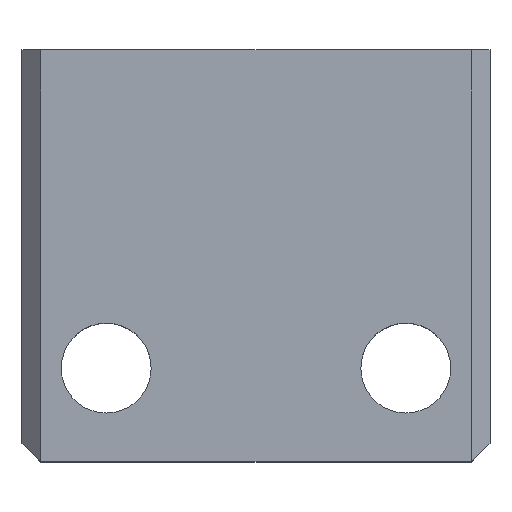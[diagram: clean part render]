
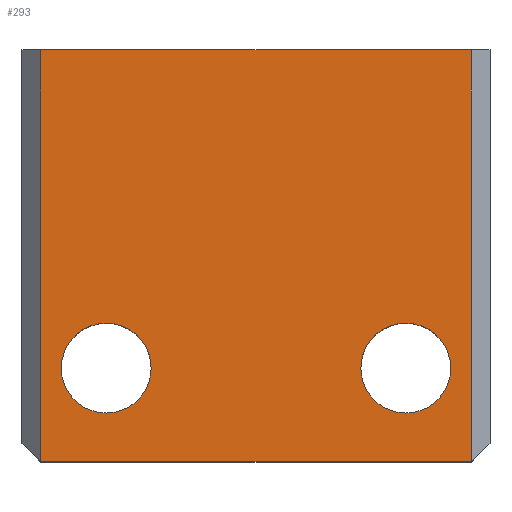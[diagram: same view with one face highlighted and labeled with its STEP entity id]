
A CAD part, top view. The second image highlights one B-rep face of the part: STEP entity #293.
In plain terms, the highlighted planar face has unit normal (0, 0, 1).
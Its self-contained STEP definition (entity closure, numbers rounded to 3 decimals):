
#4 = DIRECTION ( 'NONE',  ( 0., 0., -1. ) ) ;
#11 = EDGE_LOOP ( 'NONE', ( #245, #680 ) ) ;
#60 = CIRCLE ( 'NONE', #707, 2.4 ) ;
#66 = VERTEX_POINT ( 'NONE', #85 ) ;
#79 = LINE ( 'NONE', #385, #211 ) ;
#85 = CARTESIAN_POINT ( 'NONE',  ( 11.5, 0., 0. ) ) ;
#87 = DIRECTION ( 'NONE',  ( -1., 0., 0. ) ) ;
#115 = CARTESIAN_POINT ( 'NONE',  ( 8., -19.4, 0. ) ) ;
#125 = AXIS2_PLACEMENT_3D ( 'NONE', #353, #4, #583 ) ;
#152 = CARTESIAN_POINT ( 'NONE',  ( -8., -19.4, 0. ) ) ;
#154 = LINE ( 'NONE', #655, #290 ) ;
#157 = CARTESIAN_POINT ( 'NONE',  ( -11.5, -22., 0. ) ) ;
#160 = CARTESIAN_POINT ( 'NONE',  ( -8., -17., 0. ) ) ;
#168 = ORIENTED_EDGE ( 'NONE', *, *, #634, .T. ) ;
#177 = AXIS2_PLACEMENT_3D ( 'NONE', #704, #448, #639 ) ;
#189 = ORIENTED_EDGE ( 'NONE', *, *, #192, .T. ) ;
#192 = EDGE_CURVE ( 'NONE', #405, #209, #523, .T. ) ;
#202 = FACE_BOUND ( 'NONE', #217, .T. ) ;
#209 = VERTEX_POINT ( 'NONE', #444 ) ;
#211 = VECTOR ( 'NONE', #647, 1000. ) ;
#217 = EDGE_LOOP ( 'NONE', ( #578, #189 ) ) ;
#239 = CARTESIAN_POINT ( 'NONE',  ( 11.5, -22., 0. ) ) ;
#245 = ORIENTED_EDGE ( 'NONE', *, *, #307, .T. ) ;
#253 = EDGE_CURVE ( 'NONE', #719, #407, #709, .T. ) ;
#272 = ORIENTED_EDGE ( 'NONE', *, *, #677, .T. ) ;
#283 = AXIS2_PLACEMENT_3D ( 'NONE', #160, #658, #417 ) ;
#290 = VECTOR ( 'NONE', #87, 1000. ) ;
#293 = ADVANCED_FACE ( 'NONE', ( #202, #492, #624 ), #363, .F. ) ;
#306 = AXIS2_PLACEMENT_3D ( 'NONE', #589, #640, #391 ) ;
#307 = EDGE_CURVE ( 'NONE', #407, #719, #722, .T. ) ;
#311 = EDGE_CURVE ( 'NONE', #496, #395, #623, .T. ) ;
#327 = DIRECTION ( 'NONE',  ( 0., 0., -1. ) ) ;
#330 = EDGE_LOOP ( 'NONE', ( #168, #696, #582, #272 ) ) ;
#353 = CARTESIAN_POINT ( 'NONE',  ( 8., -17., 0. ) ) ;
#363 = PLANE ( 'NONE',  #306 ) ;
#385 = CARTESIAN_POINT ( 'NONE',  ( 11.5, -22., 0. ) ) ;
#391 = DIRECTION ( 'NONE',  ( -1., 0., 0. ) ) ;
#395 = VERTEX_POINT ( 'NONE', #576 ) ;
#397 = EDGE_CURVE ( 'NONE', #627, #395, #570, .T. ) ;
#405 = VERTEX_POINT ( 'NONE', #115 ) ;
#407 = VERTEX_POINT ( 'NONE', #541 ) ;
#417 = DIRECTION ( 'NONE',  ( 0., 1., 0. ) ) ;
#423 = DIRECTION ( 'NONE',  ( -1., 0., 0. ) ) ;
#428 = CARTESIAN_POINT ( 'NONE',  ( -11.5, 0., 0. ) ) ;
#444 = CARTESIAN_POINT ( 'NONE',  ( 8., -14.6, 0. ) ) ;
#448 = DIRECTION ( 'NONE',  ( 0., 0., -1. ) ) ;
#492 = FACE_BOUND ( 'NONE', #11, .T. ) ;
#496 = VERTEX_POINT ( 'NONE', #428 ) ;
#523 = CIRCLE ( 'NONE', #125, 2.4 ) ;
#535 = DIRECTION ( 'NONE',  ( 0., 1., 0. ) ) ;
#541 = CARTESIAN_POINT ( 'NONE',  ( -8., -14.6, 0. ) ) ;
#543 = EDGE_CURVE ( 'NONE', #209, #405, #60, .T. ) ;
#570 = LINE ( 'NONE', #620, #614 ) ;
#576 = CARTESIAN_POINT ( 'NONE',  ( -11.5, -22., 0. ) ) ;
#578 = ORIENTED_EDGE ( 'NONE', *, *, #543, .T. ) ;
#582 = ORIENTED_EDGE ( 'NONE', *, *, #397, .F. ) ;
#583 = DIRECTION ( 'NONE',  ( 0., 1., 0. ) ) ;
#589 = CARTESIAN_POINT ( 'NONE',  ( 12.5, -22., 0. ) ) ;
#603 = CARTESIAN_POINT ( 'NONE',  ( 8., -17., 0. ) ) ;
#614 = VECTOR ( 'NONE', #423, 1000. ) ;
#620 = CARTESIAN_POINT ( 'NONE',  ( 12.5, -22., 0. ) ) ;
#623 = LINE ( 'NONE', #157, #656 ) ;
#624 = FACE_OUTER_BOUND ( 'NONE', #330, .T. ) ;
#627 = VERTEX_POINT ( 'NONE', #239 ) ;
#634 = EDGE_CURVE ( 'NONE', #66, #496, #154, .T. ) ;
#639 = DIRECTION ( 'NONE',  ( 0., 1., 0. ) ) ;
#640 = DIRECTION ( 'NONE',  ( 0., 0., -1. ) ) ;
#647 = DIRECTION ( 'NONE',  ( 0., 1., 0. ) ) ;
#655 = CARTESIAN_POINT ( 'NONE',  ( 12.5, 0., 0. ) ) ;
#656 = VECTOR ( 'NONE', #674, 1000. ) ;
#658 = DIRECTION ( 'NONE',  ( 0., 0., -1. ) ) ;
#674 = DIRECTION ( 'NONE',  ( 0., -1., 0. ) ) ;
#677 = EDGE_CURVE ( 'NONE', #627, #66, #79, .T. ) ;
#680 = ORIENTED_EDGE ( 'NONE', *, *, #253, .T. ) ;
#696 = ORIENTED_EDGE ( 'NONE', *, *, #311, .T. ) ;
#704 = CARTESIAN_POINT ( 'NONE',  ( -8., -17., 0. ) ) ;
#707 = AXIS2_PLACEMENT_3D ( 'NONE', #603, #327, #535 ) ;
#709 = CIRCLE ( 'NONE', #177, 2.4 ) ;
#719 = VERTEX_POINT ( 'NONE', #152 ) ;
#722 = CIRCLE ( 'NONE', #283, 2.4 ) ;
